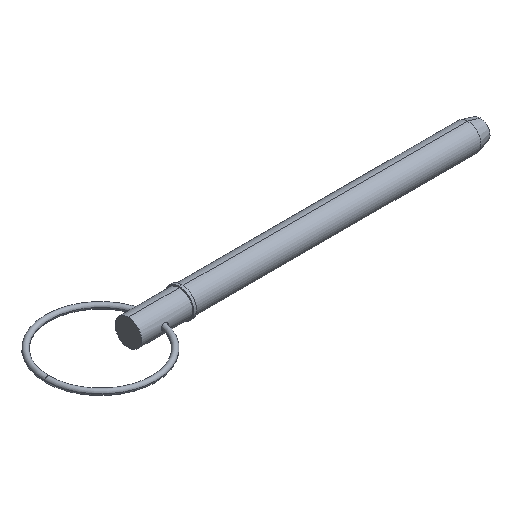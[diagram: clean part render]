
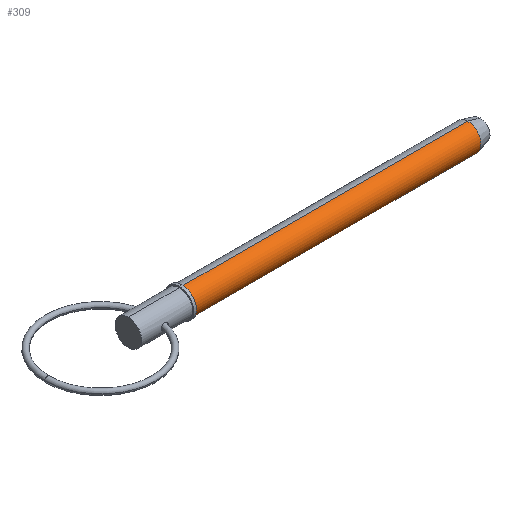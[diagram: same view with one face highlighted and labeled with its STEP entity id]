
A CAD part, isometric view. The second image highlights one B-rep face of the part: STEP entity #309.
In plain terms, the highlighted cylindrical face has radius 6.35 mm (diameter 12.7 mm), a partial arc.
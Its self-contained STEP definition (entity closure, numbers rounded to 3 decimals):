
#36 = CIRCLE ( 'NONE', #99, 6.35 ) ;
#44 = AXIS2_PLACEMENT_3D ( 'NONE', #283, #799, #70 ) ;
#51 = CYLINDRICAL_SURFACE ( 'NONE', #702, 6.35 ) ;
#70 = DIRECTION ( 'NONE',  ( 0., 0., -1. ) ) ;
#80 = LINE ( 'NONE', #1036, #798 ) ;
#94 = EDGE_LOOP ( 'NONE', ( #1049, #923, #817, #216 ) ) ;
#99 = AXIS2_PLACEMENT_3D ( 'NONE', #340, #273, #840 ) ;
#122 = CARTESIAN_POINT ( 'NONE',  ( 0., 0., 0. ) ) ;
#216 = ORIENTED_EDGE ( 'NONE', *, *, #979, .F. ) ;
#273 = DIRECTION ( 'NONE',  ( 1., 0., 0. ) ) ;
#283 = CARTESIAN_POINT ( 'NONE',  ( 162.655, 0., 0. ) ) ;
#300 = EDGE_CURVE ( 'NONE', #1045, #583, #928, .T. ) ;
#309 = ADVANCED_FACE ( 'NONE', ( #605 ), #51, .T. ) ;
#340 = CARTESIAN_POINT ( 'NONE',  ( 25.7, 0., 0. ) ) ;
#396 = CARTESIAN_POINT ( 'NONE',  ( 25.7, 0., 6.35 ) ) ;
#449 = DIRECTION ( 'NONE',  ( 0., 0., -1. ) ) ;
#455 = DIRECTION ( 'NONE',  ( 1., 0., 0. ) ) ;
#506 = VERTEX_POINT ( 'NONE', #396 ) ;
#525 = EDGE_CURVE ( 'NONE', #506, #753, #80, .T. ) ;
#538 = VECTOR ( 'NONE', #455, 1000. ) ;
#546 = CIRCLE ( 'NONE', #44, 6.35 ) ;
#578 = DIRECTION ( 'NONE',  ( 1., 0., 0. ) ) ;
#583 = VERTEX_POINT ( 'NONE', #1034 ) ;
#605 = FACE_OUTER_BOUND ( 'NONE', #94, .T. ) ;
#627 = DIRECTION ( 'NONE',  ( 1., 0., 0. ) ) ;
#654 = CARTESIAN_POINT ( 'NONE',  ( 25.7, 0., -6.35 ) ) ;
#686 = EDGE_CURVE ( 'NONE', #506, #1045, #36, .T. ) ;
#702 = AXIS2_PLACEMENT_3D ( 'NONE', #122, #627, #449 ) ;
#753 = VERTEX_POINT ( 'NONE', #925 ) ;
#798 = VECTOR ( 'NONE', #578, 1000. ) ;
#799 = DIRECTION ( 'NONE',  ( 1., 0., 0. ) ) ;
#817 = ORIENTED_EDGE ( 'NONE', *, *, #300, .T. ) ;
#840 = DIRECTION ( 'NONE',  ( 0., 0., -1. ) ) ;
#856 = CARTESIAN_POINT ( 'NONE',  ( 0., 0., -6.35 ) ) ;
#923 = ORIENTED_EDGE ( 'NONE', *, *, #686, .T. ) ;
#925 = CARTESIAN_POINT ( 'NONE',  ( 162.655, 0., 6.35 ) ) ;
#928 = LINE ( 'NONE', #856, #538 ) ;
#979 = EDGE_CURVE ( 'NONE', #753, #583, #546, .T. ) ;
#1034 = CARTESIAN_POINT ( 'NONE',  ( 162.655, 0., -6.35 ) ) ;
#1036 = CARTESIAN_POINT ( 'NONE',  ( 0., 0., 6.35 ) ) ;
#1045 = VERTEX_POINT ( 'NONE', #654 ) ;
#1049 = ORIENTED_EDGE ( 'NONE', *, *, #525, .F. ) ;
